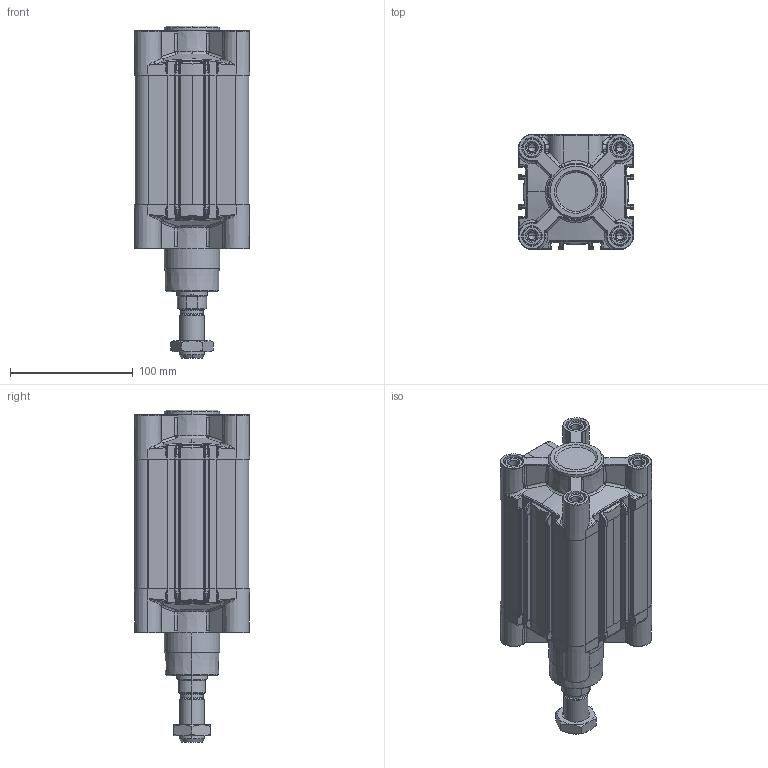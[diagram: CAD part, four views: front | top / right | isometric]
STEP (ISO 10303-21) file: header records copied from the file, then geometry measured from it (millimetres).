
FILE_DESCRIPTION (( 'STEP AP203' ), '1' );
FILE_NAME ('XB0800025A.step', '2012-10-17T18:37:48', ( '' ), ( '' ), 'SwSTEP 2.0', 'SolidWorks 2012', '' );
FILE_SCHEMA (( 'CONFIG_CONTROL_DESIGN' ));
Products named in the file (1): XB0800025A
Bounding box: 93.98 x 93.98 x 271 mm (x, y, z)
Volume: 977848.2 mm3; surface area: 224521.7 mm2
Topology: 14 solids, 14 shells, 1565 faces, 3940 edges, 2404 vertices
Faces by surface type: bspline 474, plane 429, cylinder 402, cone 248, torus 12
Entity records: 72605 total; most frequent: CARTESIAN_POINT 39209, ORIENTED_EDGE 7808, DIRECTION 5871, EDGE_CURVE 3904, VERTEX_POINT 2404, AXIS2_PLACEMENT_3D 2198, EDGE_LOOP 1630, FACE_OUTER_BOUND 1565
